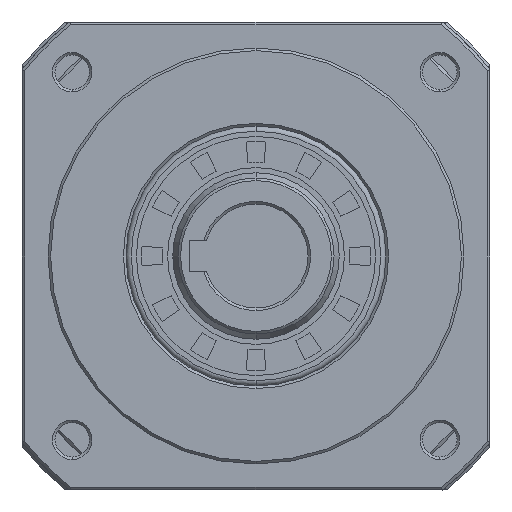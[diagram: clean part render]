
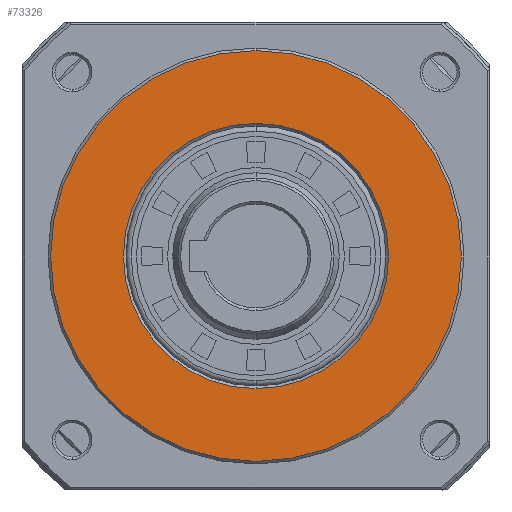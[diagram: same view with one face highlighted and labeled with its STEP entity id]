
A CAD part, left-side view. The second image highlights one B-rep face of the part: STEP entity #73326.
In plain terms, the highlighted planar face has unit normal (-1, 0, 0).
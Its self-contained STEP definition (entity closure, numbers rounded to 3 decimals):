
#3810 = DIRECTION ( 'NONE',  ( 1., 0., 0. ) ) ;
#6236 = AXIS2_PLACEMENT_3D ( 'NONE', #86585, #40106, #84328 ) ;
#8342 = FACE_OUTER_BOUND ( 'NONE', #26306, .T. ) ;
#12926 = ORIENTED_EDGE ( 'NONE', *, *, #27897, .F. ) ;
#15545 = VERTEX_POINT ( 'NONE', #50240 ) ;
#17608 = VERTEX_POINT ( 'NONE', #27031 ) ;
#19879 = EDGE_CURVE ( 'NONE', #15545, #48979, #78605, .T. ) ;
#24534 = ORIENTED_EDGE ( 'NONE', *, *, #78438, .T. ) ;
#25512 = ORIENTED_EDGE ( 'NONE', *, *, #29982, .F. ) ;
#26286 = DIRECTION ( 'NONE',  ( 1., 0., 0. ) ) ;
#26306 = EDGE_LOOP ( 'NONE', ( #12926, #25512 ) ) ;
#27031 = CARTESIAN_POINT ( 'NONE',  ( 0., 0., -39.5 ) ) ;
#27897 = EDGE_CURVE ( 'NONE', #17608, #72016, #56568, .T. ) ;
#29982 = EDGE_CURVE ( 'NONE', #72016, #17608, #50657, .T. ) ;
#30196 = DIRECTION ( 'NONE',  ( 0., 0., -1. ) ) ;
#32210 = AXIS2_PLACEMENT_3D ( 'NONE', #74794, #3810, #30196 ) ;
#33654 = CIRCLE ( 'NONE', #80239, 25.5 ) ;
#40106 = DIRECTION ( 'NONE',  ( 1., 0., 0. ) ) ;
#41548 = CARTESIAN_POINT ( 'NONE',  ( 0., 0., 39.5 ) ) ;
#44741 = CARTESIAN_POINT ( 'NONE',  ( 0., 0., 0. ) ) ;
#46863 = DIRECTION ( 'NONE',  ( 0., 0., -1. ) ) ;
#48979 = VERTEX_POINT ( 'NONE', #82694 ) ;
#49711 = AXIS2_PLACEMENT_3D ( 'NONE', #69011, #26286, #60924 ) ;
#50240 = CARTESIAN_POINT ( 'NONE',  ( 0., 0., 25.5 ) ) ;
#50657 = CIRCLE ( 'NONE', #49711, 39.5 ) ;
#56568 = CIRCLE ( 'NONE', #32210, 39.5 ) ;
#58760 = DIRECTION ( 'NONE',  ( 1., 0., 0. ) ) ;
#60251 = DIRECTION ( 'NONE',  ( 1., 0., 0. ) ) ;
#60924 = DIRECTION ( 'NONE',  ( 0., 0., -1. ) ) ;
#64717 = DIRECTION ( 'NONE',  ( 0., 0., 1. ) ) ;
#68923 = ORIENTED_EDGE ( 'NONE', *, *, #19879, .T. ) ;
#69011 = CARTESIAN_POINT ( 'NONE',  ( 0., 0., 0. ) ) ;
#69616 = FACE_BOUND ( 'NONE', #88237, .T. ) ;
#72016 = VERTEX_POINT ( 'NONE', #41548 ) ;
#73326 = ADVANCED_FACE ( 'NONE', ( #69616, #8342 ), #82045, .F. ) ;
#74794 = CARTESIAN_POINT ( 'NONE',  ( 0., 0., 0. ) ) ;
#78438 = EDGE_CURVE ( 'NONE', #48979, #15545, #33654, .T. ) ;
#78605 = CIRCLE ( 'NONE', #6236, 25.5 ) ;
#80239 = AXIS2_PLACEMENT_3D ( 'NONE', #44741, #58760, #64717 ) ;
#82045 = PLANE ( 'NONE',  #90159 ) ;
#82694 = CARTESIAN_POINT ( 'NONE',  ( 0., 0., -25.5 ) ) ;
#84328 = DIRECTION ( 'NONE',  ( 0., 0., 1. ) ) ;
#86585 = CARTESIAN_POINT ( 'NONE',  ( 0., 0., 0. ) ) ;
#88237 = EDGE_LOOP ( 'NONE', ( #68923, #24534 ) ) ;
#89559 = CARTESIAN_POINT ( 'NONE',  ( 0., -39.974, 39.974 ) ) ;
#90159 = AXIS2_PLACEMENT_3D ( 'NONE', #89559, #60251, #46863 ) ;
